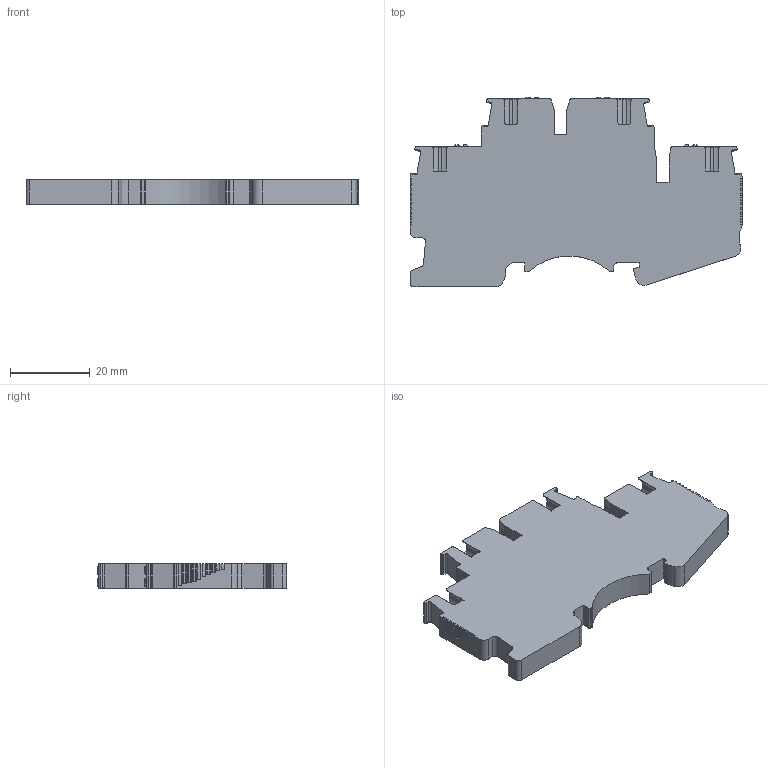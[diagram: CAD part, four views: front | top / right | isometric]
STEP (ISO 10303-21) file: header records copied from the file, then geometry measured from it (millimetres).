
FILE_DESCRIPTION((''),'2;1');
FILE_NAME('PRT0024','2020-04-21T',('Administrator'),(''),'PRO/ENGINEER BY PARAMETRIC TECHNOLOGY CORPORATION, 2010280','PRO/ENGINEER BY PARAMETRIC TECHNOLOGY CORPORATION, 2010280','');
FILE_SCHEMA(('CONFIG_CONTROL_DESIGN'));
Length unit declared in the file: millimetre
Products named in the file (1): PRT0024
Bounding box: 83.5 x 47.65 x 6.15 mm (x, y, z)
Volume: 17400.7 mm3; surface area: 8647.7 mm2
Topology: 1 solids, 1 shells, 718 faces, 1993 edges, 1250 vertices
Faces by surface type: plane 426, cylinder 213, sphere 42, torus 24, cone 12, revolution 1
Entity records: 22745 total; most frequent: CARTESIAN_POINT 4469, ORIENTED_EDGE 3910, DIRECTION 3723, EDGE_CURVE 1955, VECTOR 1360, LINE 1360, VERTEX_POINT 1250, AXIS2_PLACEMENT_3D 1181
